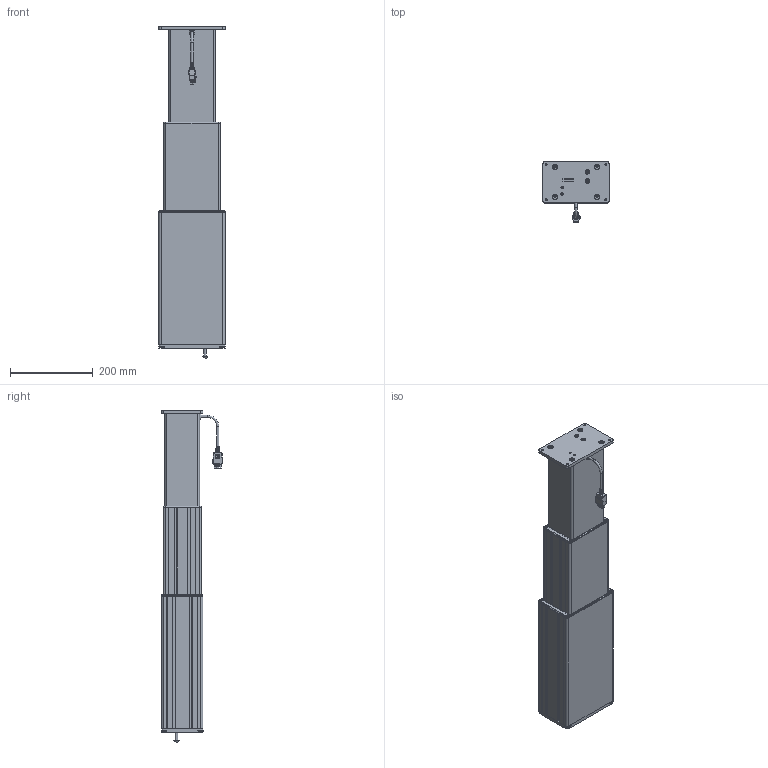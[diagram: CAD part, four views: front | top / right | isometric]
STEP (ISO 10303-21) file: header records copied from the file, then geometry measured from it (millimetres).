
FILE_DESCRIPTION(/* description */ ('Unknown'),/* implementation_level */ '2;1');
FILE_NAME(/* name */ '911.20002_00-ausgefahren',/* time_stamp */ '2024-11-07T13:14:48+01:00',/* author */ ('Unknown'),/* organization */ ('Unknown'),/* preprocessor_version */ 'ST-DEVELOPER v18.104',/* originating_system */ 'Solid Edge',/* authorisation */ 'Unknown');
FILE_SCHEMA (('AUTOMOTIVE_DESIGN {1 0 10303 214 3 1 1}'));
Products named in the file (24): 911.20002; 126.00191; 119.00595; 119.00596; 119.00597; 119.00598; 119.00599; 127.00458; 126.00192; 126.00188; 127.00450; 124.00245; 128.00078; 128.00079; 142.00303; 142.00329; 142.00039; 142.00154; 142.00349; 142.00043; Kabel Molex; 124.00129; 142.00304; 110.00039_ausgefahren 400mm
Assembly tree (40 placements, depth 2):
  911.20002
    126.00191
    119.00595
    119.00596  x2
    119.00597  x2
    119.00598  x2
    119.00599  x2
    127.00458
    126.00192
    126.00188
    127.00450
    124.00245
    128.00078
    128.00079
    142.00303  x4
    142.00329  x2
    142.00039  x4
    142.00154  x4
    142.00349  x3
    142.00043  x2
    Kabel Molex
    124.00129
    142.00304
    110.00039_ausgefahren 400mm
Bounding box: 160.4 x 148.17 x 804.09 mm (x, y, z)
Volume: 3040081.9 mm3; surface area: 1509954.4 mm2
Topology: 43 solids, 79 shells, 3489 faces, 9091 edges, 5817 vertices
Faces by surface type: plane 1634, cylinder 1135, torus 389, cone 240, bspline 72, sphere 19
Full cylindrical faces by diameter (mm): 2 x18, 2.5 x1, 2.8 x6, 3.621 x6, 3.9 x4, 4 x53, 4.134 x9, 4.2 x12, 4.6 x2, 4.9 x1, 4.917 x6, 5 x14, 5.3 x3, 5.5 x8, 6 x13, 6.2 x5, 6.3 x2, 6.5 x4, 6.647 x4, 7 x2, 7.1 x1, 7.4 x6, 7.5 x1, 8 x3, 8.5 x1, 9 x1, 10 x10, 10.5 x1, 10.6 x2, 11 x2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
Entity records: 112820 total; most frequent: CARTESIAN_POINT 22946, DIRECTION 16351, ORIENTED_EDGE 15922, EDGE_CURVE 7961, AXIS2_PLACEMENT_3D 6232, VERTEX_POINT 5181, LINE 3887, VECTOR 3887
